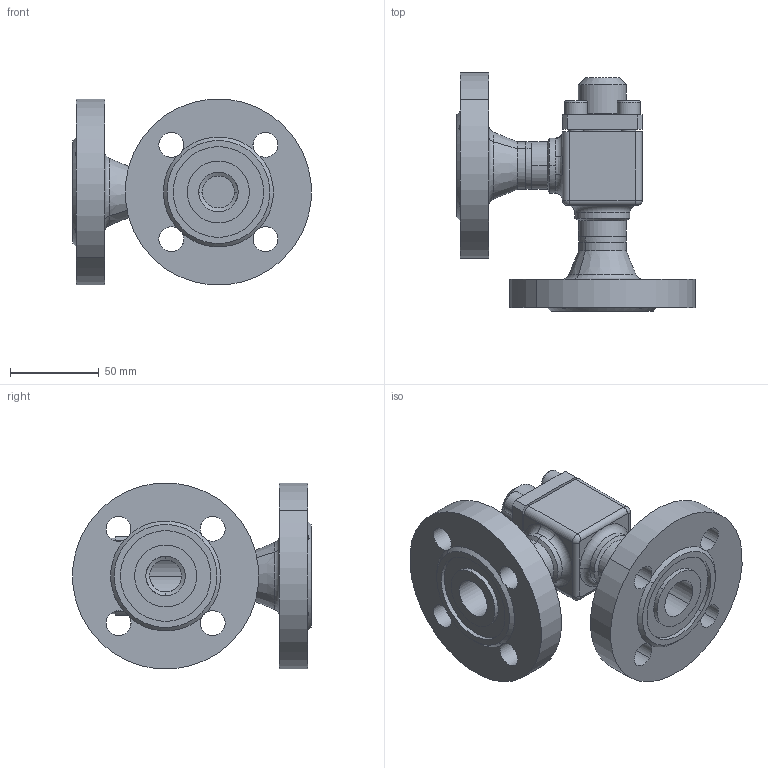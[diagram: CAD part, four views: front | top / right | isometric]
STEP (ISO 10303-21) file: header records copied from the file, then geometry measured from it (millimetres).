
FILE_DESCRIPTION (( 'STEP AP214' ), '1' );
FILE_NAME ('RV98420-DN020_DIN-FL-N_PS40.STEP', '2006-05-02T09:36:58', ( 'Herr Grams' ), ( 'AWP GmbH' ), 'SwSTEP 2.0', 'SolidWorks 2002296', '' );
FILE_SCHEMA (( 'AUTOMOTIVE_DESIGN' ));
Length unit declared in the file: millimetre
Products named in the file (9): RV98420-DN020_DIN-FL-N_PS40; RV98300E11_Deck+Schr-DN20_Standard; Deckel98300E11-DN20_PS40_Standard; Zylinderschraube-DIN912_M 8x 20; Geh-kpl96420E11-DN20_PS40_DIN-FL_Standard; Gehäuse96400E11-DN20_PS40_R1_Standard; bead964-DN020-1_Standard; bead964-DN020-2_Standard; Flansch-DIN2635-Nut_PS40_DIN-Flansch-DN020_PS40-Nut
Assembly tree (12 placements, depth 3):
  RV98420-DN020_DIN-FL-N_PS40
    Geh-kpl96420E11-DN20_PS40_DIN-FL_Standard
      bead964-DN020-1_Standard
      bead964-DN020-2_Standard
      Flansch-DIN2635-Nut_PS40_DIN-Flansch-DN020_PS40-Nut  x2
      Gehäuse96400E11-DN20_PS40_R1_Standard
    RV98300E11_Deck+Schr-DN20_Standard
      Zylinderschraube-DIN912_M 8x 20  x4
      Deckel98300E11-DN20_PS40_Standard
Bounding box: 134.3 x 134.3 x 104.6 mm (x, y, z)
Volume: 371203.4 mm3; surface area: 91241.3 mm2
Topology: 10 solids, 10 shells, 256 faces, 595 edges, 367 vertices
Faces by surface type: cylinder 100, plane 78, cone 44, torus 23, bspline 11
Entity records: 10075 total; most frequent: CARTESIAN_POINT 5422, DIRECTION 892, ORIENTED_EDGE 798, EDGE_CURVE 399, AXIS2_PLACEMENT_3D 369, VERTEX_POINT 243, EDGE_LOOP 198, CIRCLE 193
